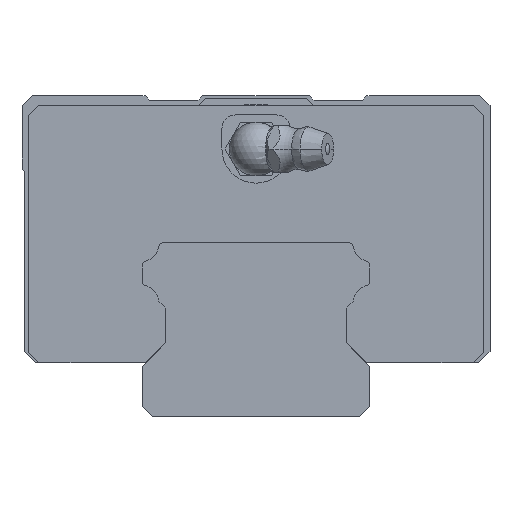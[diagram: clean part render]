
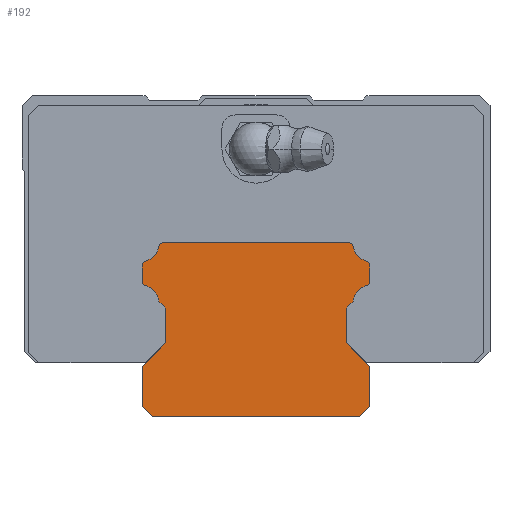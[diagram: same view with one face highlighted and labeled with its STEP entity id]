
A CAD part, front view. The second image highlights one B-rep face of the part: STEP entity #192.
In plain terms, the highlighted planar face has unit normal (0, -1, 0).
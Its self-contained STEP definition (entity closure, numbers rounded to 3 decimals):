
#192=ADVANCED_FACE('',(#452),#453,.T.);
#452=FACE_OUTER_BOUND('',#948,.T.);
#453=PLANE('',#949);
#948=EDGE_LOOP('',(#1641,#1642,#1643,#1644,#1645,#1646,#1647,#1648,#1649,#1650,#1651,#1652,#1653,#1654,#1655,#1656,#1657,#1658,#1659,#1660,#1661,#1662,#1663,#1664));
#949=AXIS2_PLACEMENT_3D('',#1665,#1666,#1667);
#1641=ORIENTED_EDGE('',*,*,#3427,.T.);
#1642=ORIENTED_EDGE('',*,*,#3433,.T.);
#1643=ORIENTED_EDGE('',*,*,#3415,.T.);
#1644=ORIENTED_EDGE('',*,*,#3434,.T.);
#1645=ORIENTED_EDGE('',*,*,#3435,.T.);
#1646=ORIENTED_EDGE('',*,*,#3379,.T.);
#1647=ORIENTED_EDGE('',*,*,#3372,.T.);
#1648=ORIENTED_EDGE('',*,*,#3376,.T.);
#1649=ORIENTED_EDGE('',*,*,#3384,.T.);
#1650=ORIENTED_EDGE('',*,*,#3436,.T.);
#1651=ORIENTED_EDGE('',*,*,#3437,.T.);
#1652=ORIENTED_EDGE('',*,*,#3438,.T.);
#1653=ORIENTED_EDGE('',*,*,#3439,.T.);
#1654=ORIENTED_EDGE('',*,*,#3392,.T.);
#1655=ORIENTED_EDGE('',*,*,#3440,.T.);
#1656=ORIENTED_EDGE('',*,*,#3441,.T.);
#1657=ORIENTED_EDGE('',*,*,#3421,.T.);
#1658=ORIENTED_EDGE('',*,*,#3442,.T.);
#1659=ORIENTED_EDGE('',*,*,#3430,.T.);
#1660=ORIENTED_EDGE('',*,*,#3443,.T.);
#1661=ORIENTED_EDGE('',*,*,#3444,.T.);
#1662=ORIENTED_EDGE('',*,*,#3418,.T.);
#1663=ORIENTED_EDGE('',*,*,#3445,.T.);
#1664=ORIENTED_EDGE('',*,*,#3446,.T.);
#1665=CARTESIAN_POINT('',(-16.2,-95.0,20.283));
#1666=DIRECTION('',(0.0,-1.0,0.0));
#1667=DIRECTION('',(0.0,0.0,-1.0));
#3372=EDGE_CURVE('',#3997,#3998,#3999,.T.);
#3376=EDGE_CURVE('',#3998,#4005,#4006,.T.);
#3379=EDGE_CURVE('',#4010,#3997,#4011,.T.);
#3384=EDGE_CURVE('',#4005,#4017,#4018,.T.);
#3392=EDGE_CURVE('',#4028,#4029,#4030,.T.);
#3415=EDGE_CURVE('',#4072,#4073,#4074,.T.);
#3418=EDGE_CURVE('',#4077,#4078,#4079,.T.);
#3421=EDGE_CURVE('',#4082,#4083,#4084,.T.);
#3427=EDGE_CURVE('',#4091,#4092,#4093,.T.);
#3430=EDGE_CURVE('',#4096,#4097,#4098,.T.);
#3433=EDGE_CURVE('',#4092,#4072,#4101,.T.);
#3434=EDGE_CURVE('',#4073,#4102,#4103,.T.);
#3435=EDGE_CURVE('',#4102,#4010,#4104,.T.);
#3436=EDGE_CURVE('',#4017,#4105,#4106,.T.);
#3437=EDGE_CURVE('',#4105,#4107,#4108,.T.);
#3438=EDGE_CURVE('',#4107,#4109,#4110,.T.);
#3439=EDGE_CURVE('',#4109,#4028,#4111,.T.);
#3440=EDGE_CURVE('',#4029,#4112,#4113,.T.);
#3441=EDGE_CURVE('',#4112,#4082,#4114,.T.);
#3442=EDGE_CURVE('',#4083,#4096,#4115,.T.);
#3443=EDGE_CURVE('',#4097,#4116,#4117,.T.);
#3444=EDGE_CURVE('',#4116,#4077,#4118,.T.);
#3445=EDGE_CURVE('',#4078,#4119,#4120,.T.);
#3446=EDGE_CURVE('',#4119,#4091,#4121,.T.);
#3997=VERTEX_POINT('',#4997);
#3998=VERTEX_POINT('',#4998);
#3999=LINE('',#4999,#5000);
#4005=VERTEX_POINT('',#5009);
#4006=LINE('',#5010,#5011);
#4010=VERTEX_POINT('',#5017);
#4011=LINE('',#5018,#5019);
#4017=VERTEX_POINT('',#5027);
#4018=LINE('',#5028,#5029);
#4028=VERTEX_POINT('',#5041);
#4029=VERTEX_POINT('',#5042);
#4030=LINE('',#5043,#5044);
#4072=VERTEX_POINT('',#5098);
#4073=VERTEX_POINT('',#5099);
#4074=CIRCLE('',#5100,2.6);
#4077=VERTEX_POINT('',#5105);
#4078=VERTEX_POINT('',#5106);
#4079=CIRCLE('',#5107,0.8);
#4082=VERTEX_POINT('',#5112);
#4083=VERTEX_POINT('',#5113);
#4084=LINE('',#5114,#5115);
#4091=VERTEX_POINT('',#5124);
#4092=VERTEX_POINT('',#5125);
#4093=LINE('',#5126,#5127);
#4096=VERTEX_POINT('',#5132);
#4097=VERTEX_POINT('',#5133);
#4098=CIRCLE('',#5134,2.6);
#4101=CIRCLE('',#5139,0.8);
#4102=VERTEX_POINT('',#5140);
#4103=LINE('',#5141,#5142);
#4104=LINE('',#5143,#5144);
#4105=VERTEX_POINT('',#5145);
#4106=LINE('',#5146,#5147);
#4107=VERTEX_POINT('',#5148);
#4108=LINE('',#5149,#5150);
#4109=VERTEX_POINT('',#5151);
#4110=LINE('',#5152,#5153);
#4111=LINE('',#5154,#5155);
#4112=VERTEX_POINT('',#5156);
#4113=CIRCLE('',#5157,2.6);
#4114=CIRCLE('',#5158,0.8);
#4115=CIRCLE('',#5159,0.8);
#4116=VERTEX_POINT('',#5160);
#4117=CIRCLE('',#5161,0.8);
#4118=LINE('',#5162,#5163);
#4119=VERTEX_POINT('',#5164);
#4120=CIRCLE('',#5165,2.6);
#4121=CIRCLE('',#5166,0.8);
#4997=CARTESIAN_POINT('',(-17.0,-95.0,7.5));
#4998=CARTESIAN_POINT('',(-17.0,-95.0,1.5));
#4999=CARTESIAN_POINT('',(-17.0,-95.0,7.5));
#5000=VECTOR('',#6475,1000.0);
#5009=CARTESIAN_POINT('',(-15.5,-95.0,0.));
#5010=CARTESIAN_POINT('',(-17.0,-95.0,1.5));
#5011=VECTOR('',#6479,1000.0);
#5017=CARTESIAN_POINT('',(-13.5,-95.0,11.));
#5018=CARTESIAN_POINT('',(-13.5,-95.0,11.));
#5019=VECTOR('',#6482,1000.0);
#5027=CARTESIAN_POINT('',(15.5,-95.0,0.0));
#5028=CARTESIAN_POINT('',(-15.5,-95.0,0.0));
#5029=VECTOR('',#6491,1000.0);
#5041=CARTESIAN_POINT('',(13.5,-95.0,16.2));
#5042=CARTESIAN_POINT('',(14.545,-95.0,17.245));
#5043=CARTESIAN_POINT('',(13.5,-95.0,16.2));
#5044=VECTOR('',#6509,1000.0);
#5098=CARTESIAN_POINT('',(-16.42,-95.0,19.514));
#5099=CARTESIAN_POINT('',(-14.545,-95.0,17.245));
#5100=AXIS2_PLACEMENT_3D('',#6552,#6553,#6554);
#5105=CARTESIAN_POINT('',(-13.785,-95.0,26.0));
#5106=CARTESIAN_POINT('',(-14.573,-95.0,25.338));
#5107=AXIS2_PLACEMENT_3D('',#6557,#6558,#6559);
#5112=CARTESIAN_POINT('',(17.0,-95.0,20.283));
#5113=CARTESIAN_POINT('',(17.0,-95.0,22.517));
#5114=CARTESIAN_POINT('',(17.0,-95.0,20.283));
#5115=VECTOR('',#6562,1000.0);
#5124=CARTESIAN_POINT('',(-17.0,-95.0,22.517));
#5125=CARTESIAN_POINT('',(-17.0,-95.0,20.283));
#5126=CARTESIAN_POINT('',(-17.0,-95.0,22.517));
#5127=VECTOR('',#6574,1000.0);
#5132=CARTESIAN_POINT('',(16.42,-95.0,23.286));
#5133=CARTESIAN_POINT('',(14.573,-95.0,25.338));
#5134=AXIS2_PLACEMENT_3D('',#6577,#6578,#6579);
#5139=AXIS2_PLACEMENT_3D('',#6582,#6583,#6584);
#5140=CARTESIAN_POINT('',(-13.5,-95.0,16.2));
#5141=CARTESIAN_POINT('',(-14.545,-95.0,17.245));
#5142=VECTOR('',#6585,1000.0);
#5143=CARTESIAN_POINT('',(-13.5,-95.0,16.2));
#5144=VECTOR('',#6586,1000.0);
#5145=CARTESIAN_POINT('',(17.0,-95.0,1.5));
#5146=CARTESIAN_POINT('',(15.5,-95.0,0.0));
#5147=VECTOR('',#6587,1000.0);
#5148=CARTESIAN_POINT('',(17.0,-95.0,7.5));
#5149=CARTESIAN_POINT('',(17.0,-95.0,1.5));
#5150=VECTOR('',#6588,1000.0);
#5151=CARTESIAN_POINT('',(13.5,-95.0,11.));
#5152=CARTESIAN_POINT('',(17.0,-95.0,7.5));
#5153=VECTOR('',#6589,1000.0);
#5154=CARTESIAN_POINT('',(13.5,-95.0,11.));
#5155=VECTOR('',#6590,1000.0);
#5156=CARTESIAN_POINT('',(16.42,-95.0,19.514));
#5157=AXIS2_PLACEMENT_3D('',#6591,#6592,#6593);
#5158=AXIS2_PLACEMENT_3D('',#6594,#6595,#6596);
#5159=AXIS2_PLACEMENT_3D('',#6597,#6598,#6599);
#5160=CARTESIAN_POINT('',(13.785,-95.0,26.0));
#5161=AXIS2_PLACEMENT_3D('',#6600,#6601,#6602);
#5162=CARTESIAN_POINT('',(13.785,-95.0,26.0));
#5163=VECTOR('',#6603,1000.0);
#5164=CARTESIAN_POINT('',(-16.42,-95.0,23.286));
#5165=AXIS2_PLACEMENT_3D('',#6604,#6605,#6606);
#5166=AXIS2_PLACEMENT_3D('',#6607,#6608,#6609);
#6475=DIRECTION('',(0.0,0.0,-1.0));
#6479=DIRECTION('',(0.707,0.0,-0.707));
#6482=DIRECTION('',(-0.707,0.0,-0.707));
#6491=DIRECTION('',(1.0,0.0,0.0));
#6509=DIRECTION('',(0.707,0.0,0.707));
#6552=CARTESIAN_POINT('',(-17.134,-95.0,17.014));
#6553=DIRECTION('',(0.0,1.0,0.));
#6554=DIRECTION('',(1.0,0.0,0.0));
#6557=CARTESIAN_POINT('',(-13.785,-95.0,25.2));
#6558=DIRECTION('',(0.0,-1.0,0.0));
#6559=DIRECTION('',(1.0,0.0,0.0));
#6562=DIRECTION('',(0.0,0.0,1.0));
#6574=DIRECTION('',(0.0,0.0,-1.0));
#6577=CARTESIAN_POINT('',(17.134,-95.0,25.786));
#6578=DIRECTION('',(0.0,1.0,0.));
#6579=DIRECTION('',(1.0,0.0,0.0));
#6582=CARTESIAN_POINT('',(-16.2,-95.0,20.283));
#6583=DIRECTION('',(0.0,-1.0,0.0));
#6584=DIRECTION('',(1.0,0.0,0.0));
#6585=DIRECTION('',(0.707,0.0,-0.707));
#6586=DIRECTION('',(0.0,0.0,-1.0));
#6587=DIRECTION('',(0.707,0.0,0.707));
#6588=DIRECTION('',(0.0,0.0,1.0));
#6589=DIRECTION('',(-0.707,0.0,0.707));
#6590=DIRECTION('',(0.0,0.0,1.0));
#6591=CARTESIAN_POINT('',(17.134,-95.0,17.014));
#6592=DIRECTION('',(0.0,1.0,0.));
#6593=DIRECTION('',(1.0,0.0,0.0));
#6594=CARTESIAN_POINT('',(16.2,-95.0,20.283));
#6595=DIRECTION('',(0.0,-1.0,0.0));
#6596=DIRECTION('',(1.0,0.0,0.0));
#6597=CARTESIAN_POINT('',(16.2,-95.0,22.517));
#6598=DIRECTION('',(0.0,-1.0,0.0));
#6599=DIRECTION('',(1.0,0.0,0.0));
#6600=CARTESIAN_POINT('',(13.785,-95.0,25.2));
#6601=DIRECTION('',(0.0,-1.0,0.0));
#6602=DIRECTION('',(1.0,0.0,0.0));
#6603=DIRECTION('',(-1.0,0.0,0.0));
#6604=CARTESIAN_POINT('',(-17.134,-95.0,25.786));
#6605=DIRECTION('',(0.0,1.0,0.));
#6606=DIRECTION('',(1.0,0.0,0.0));
#6607=CARTESIAN_POINT('',(-16.2,-95.0,22.517));
#6608=DIRECTION('',(0.0,-1.0,0.0));
#6609=DIRECTION('',(1.0,0.0,0.0));
